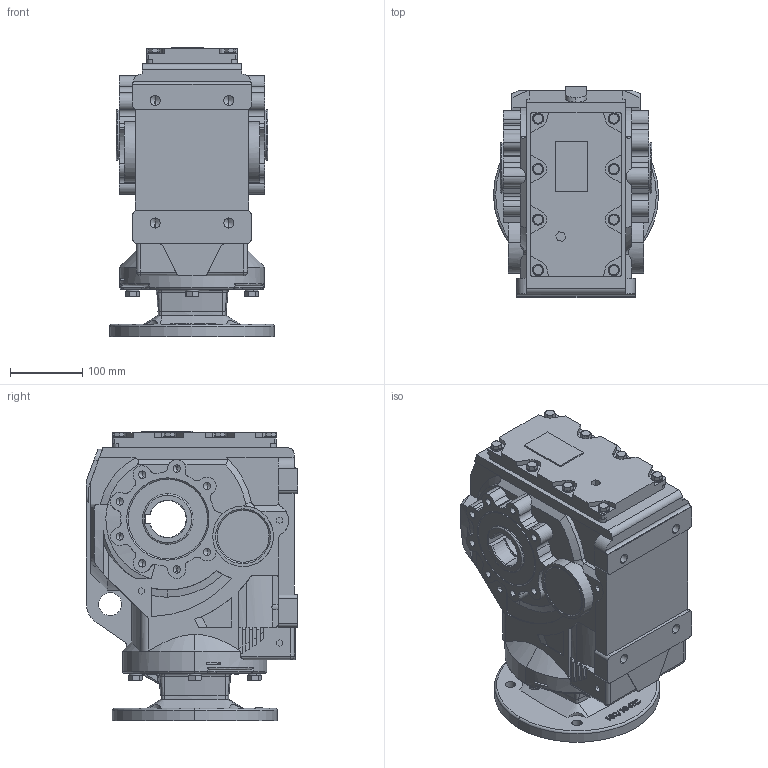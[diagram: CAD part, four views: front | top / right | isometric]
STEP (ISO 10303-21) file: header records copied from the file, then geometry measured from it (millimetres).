
FILE_DESCRIPTION (( 'STEP AP203' ), '1' );
FILE_NAME ('KAN77-182-4TC.STEP', '2022-04-09T02:23:39', ( 'user1' ), ( '' ), 'SwSTEP 2.0', 'SolidWorks 2012', '' );
FILE_SCHEMA (( 'CONFIG_CONTROL_DESIGN' ));
Products named in the file (1): KAN77-182-4TC
Bounding box: 228.6 x 293 x 401 mm (x, y, z)
Volume: 14282475.3 mm3; surface area: 597126.9 mm2
Topology: 1 solids, 1 shells, 1299 faces, 3401 edges, 2154 vertices
Faces by surface type: plane 614, cylinder 398, cone 143, bspline 112, torus 26, sphere 6
Entity records: 49567 total; most frequent: CARTESIAN_POINT 18283, ORIENTED_EDGE 6710, DIRECTION 6191, EDGE_CURVE 3355, AXIS2_PLACEMENT_3D 2168, VERTEX_POINT 2154, LINE 1855, VECTOR 1855
